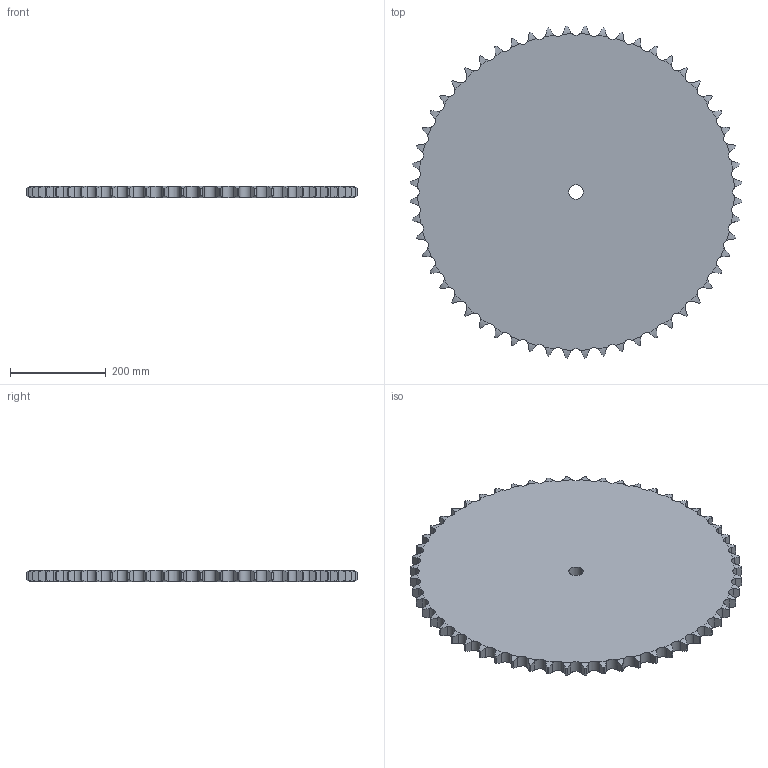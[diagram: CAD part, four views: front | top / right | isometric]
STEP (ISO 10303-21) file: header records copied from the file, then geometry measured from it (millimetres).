
FILE_DESCRIPTION((''),'2;1');
FILE_NAME('500-701-0056_PRT','2021-02-12T',('Brieden'),('Brieden'),'PRO/ENGINEER BY PARAMETRIC TECHNOLOGY CORPORATION, 2010160','PRO/ENGINEER BY PARAMETRIC TECHNOLOGY CORPORATION, 2010160','');
FILE_SCHEMA(('AUTOMOTIVE_DESIGN { 1 0 10303 214 1 1 1 1 }'));
Length unit declared in the file: millimetre
Products named in the file (1): 500-701-0056_PRT
Bounding box: 692.39 x 692.39 x 24.1 mm (x, y, z)
Volume: 8415979.2 mm3; surface area: 775901.7 mm2
Topology: 1 solids, 1 shells, 340 faces, 1014 edges, 676 vertices
Faces by surface type: cylinder 226, torus 112, plane 2
Entity records: 17572 total; most frequent: CARTESIAN_POINT 5867, ORIENTED_EDGE 2028, DIRECTION 1586, PRESENTATION_STYLE_ASSIGNMENT 1015, STYLED_ITEM 1015, CURVE_STYLE 1014, EDGE_CURVE 1014, AXIS2_PLACEMENT_3D 680
